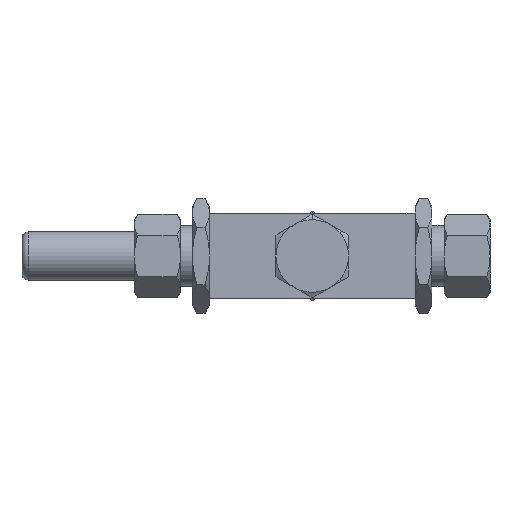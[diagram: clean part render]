
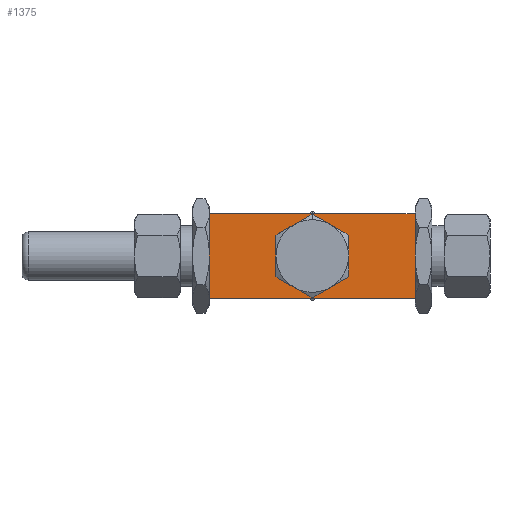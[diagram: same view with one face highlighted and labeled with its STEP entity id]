
A CAD part, front view. The second image highlights one B-rep face of the part: STEP entity #1375.
In plain terms, the highlighted planar face has unit normal (0, -1, 0).
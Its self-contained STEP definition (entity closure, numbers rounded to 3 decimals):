
#117 = ORIENTED_EDGE ( 'NONE', *, *, #3538, .T. ) ;
#238 = CARTESIAN_POINT ( 'NONE',  ( 0., -32.5, 0. ) ) ;
#410 = EDGE_CURVE ( 'NONE', #5598, #3706, #5259, .T. ) ;
#414 = AXIS2_PLACEMENT_3D ( 'NONE', #2216, #5166, #6141 ) ;
#654 = CARTESIAN_POINT ( 'NONE',  ( 0., -32.5, 0. ) ) ;
#707 = CARTESIAN_POINT ( 'NONE',  ( 0., -32.5, 0. ) ) ;
#748 = CARTESIAN_POINT ( 'NONE',  ( 0., -32.5, 0. ) ) ;
#749 = ORIENTED_EDGE ( 'NONE', *, *, #3617, .F. ) ;
#801 = CARTESIAN_POINT ( 'NONE',  ( -42.5, -32.5, -17.5 ) ) ;
#884 = AXIS2_PLACEMENT_3D ( 'NONE', #238, #2183, #4678 ) ;
#964 = ORIENTED_EDGE ( 'NONE', *, *, #6220, .F. ) ;
#1072 = CARTESIAN_POINT ( 'NONE',  ( -42.5, -32.5, -17.5 ) ) ;
#1140 = FACE_BOUND ( 'NONE', #3761, .T. ) ;
#1194 = CIRCLE ( 'NONE', #884, 15. ) ;
#1229 = DIRECTION ( 'NONE',  ( 0., 0., -1. ) ) ;
#1267 = EDGE_LOOP ( 'NONE', ( #1551, #2240, #5068, #117 ) ) ;
#1318 = DIRECTION ( 'NONE',  ( 0., -1., 0. ) ) ;
#1372 = VECTOR ( 'NONE', #2077, 1000. ) ;
#1375 = ADVANCED_FACE ( 'NONE', ( #1618, #1140 ), #2223, .F. ) ;
#1387 = CIRCLE ( 'NONE', #3351, 15. ) ;
#1427 = CARTESIAN_POINT ( 'NONE',  ( -42.5, -32.5, 17.5 ) ) ;
#1527 = CIRCLE ( 'NONE', #414, 15. ) ;
#1551 = ORIENTED_EDGE ( 'NONE', *, *, #2468, .T. ) ;
#1618 = FACE_OUTER_BOUND ( 'NONE', #1267, .T. ) ;
#1677 = DIRECTION ( 'NONE',  ( 0., 0., -1. ) ) ;
#1740 = CARTESIAN_POINT ( 'NONE',  ( -7.5, -32.5, 12.99 ) ) ;
#1767 = CARTESIAN_POINT ( 'NONE',  ( 7.5, -32.5, 12.99 ) ) ;
#1781 = EDGE_CURVE ( 'NONE', #2086, #4304, #1527, .T. ) ;
#1788 = ORIENTED_EDGE ( 'NONE', *, *, #5767, .F. ) ;
#1791 = EDGE_CURVE ( 'NONE', #2143, #4657, #1841, .T. ) ;
#1814 = CARTESIAN_POINT ( 'NONE',  ( -15., -32.5, 0. ) ) ;
#1841 = CIRCLE ( 'NONE', #3910, 15. ) ;
#1905 = LINE ( 'NONE', #1427, #2294 ) ;
#2077 = DIRECTION ( 'NONE',  ( 1., 0., 0. ) ) ;
#2086 = VERTEX_POINT ( 'NONE', #1814 ) ;
#2097 = DIRECTION ( 'NONE',  ( 0., 0., -1. ) ) ;
#2126 = VERTEX_POINT ( 'NONE', #4538 ) ;
#2143 = VERTEX_POINT ( 'NONE', #3086 ) ;
#2183 = DIRECTION ( 'NONE',  ( 0., -1., 0. ) ) ;
#2209 = DIRECTION ( 'NONE',  ( 0., -1., 0. ) ) ;
#2216 = CARTESIAN_POINT ( 'NONE',  ( 0., -32.5, 0. ) ) ;
#2223 = PLANE ( 'NONE',  #2721 ) ;
#2240 = ORIENTED_EDGE ( 'NONE', *, *, #410, .F. ) ;
#2294 = VECTOR ( 'NONE', #5314, 1000. ) ;
#2315 = CIRCLE ( 'NONE', #2626, 15. ) ;
#2468 = EDGE_CURVE ( 'NONE', #4936, #3706, #5988, .T. ) ;
#2626 = AXIS2_PLACEMENT_3D ( 'NONE', #5972, #2991, #4899 ) ;
#2682 = ORIENTED_EDGE ( 'NONE', *, *, #1791, .F. ) ;
#2721 = AXIS2_PLACEMENT_3D ( 'NONE', #6150, #3663, #3700 ) ;
#2733 = CARTESIAN_POINT ( 'NONE',  ( 7.5, -32.5, -12.99 ) ) ;
#2885 = CARTESIAN_POINT ( 'NONE',  ( 42.5, -32.5, -17.5 ) ) ;
#2950 = EDGE_CURVE ( 'NONE', #2126, #5598, #4546, .T. ) ;
#2991 = DIRECTION ( 'NONE',  ( 0., -1., 0. ) ) ;
#3005 = VERTEX_POINT ( 'NONE', #2733 ) ;
#3079 = EDGE_CURVE ( 'NONE', #4657, #4585, #6015, .T. ) ;
#3086 = CARTESIAN_POINT ( 'NONE',  ( 15., -32.5, 0. ) ) ;
#3172 = DIRECTION ( 'NONE',  ( 0., -1., 0. ) ) ;
#3230 = AXIS2_PLACEMENT_3D ( 'NONE', #5747, #1318, #3289 ) ;
#3247 = ORIENTED_EDGE ( 'NONE', *, *, #3079, .F. ) ;
#3289 = DIRECTION ( 'NONE',  ( 0., 0., -1. ) ) ;
#3318 = CARTESIAN_POINT ( 'NONE',  ( 42.5, -32.5, 17.5 ) ) ;
#3351 = AXIS2_PLACEMENT_3D ( 'NONE', #748, #2209, #1229 ) ;
#3424 = CARTESIAN_POINT ( 'NONE',  ( 42.5, -32.5, 17.5 ) ) ;
#3538 = EDGE_CURVE ( 'NONE', #2126, #4936, #1905, .T. ) ;
#3617 = EDGE_CURVE ( 'NONE', #3005, #2143, #5919, .T. ) ;
#3663 = DIRECTION ( 'NONE',  ( 0., 1., 0. ) ) ;
#3700 = DIRECTION ( 'NONE',  ( 0., 0., 1. ) ) ;
#3706 = VERTEX_POINT ( 'NONE', #2885 ) ;
#3761 = EDGE_LOOP ( 'NONE', ( #3247, #2682, #749, #1788, #5406, #4338, #964 ) ) ;
#3781 = CARTESIAN_POINT ( 'NONE',  ( -7.5, -32.5, -12.99 ) ) ;
#3910 = AXIS2_PLACEMENT_3D ( 'NONE', #654, #3172, #1677 ) ;
#3963 = VECTOR ( 'NONE', #5047, 1000. ) ;
#4304 = VERTEX_POINT ( 'NONE', #3781 ) ;
#4338 = ORIENTED_EDGE ( 'NONE', *, *, #1781, .F. ) ;
#4454 = CARTESIAN_POINT ( 'NONE',  ( 0., -32.5, -15. ) ) ;
#4538 = CARTESIAN_POINT ( 'NONE',  ( -42.5, -32.5, 17.5 ) ) ;
#4546 = LINE ( 'NONE', #6004, #1372 ) ;
#4585 = VERTEX_POINT ( 'NONE', #1740 ) ;
#4657 = VERTEX_POINT ( 'NONE', #1767 ) ;
#4678 = DIRECTION ( 'NONE',  ( 0., 0., -1. ) ) ;
#4899 = DIRECTION ( 'NONE',  ( 0., 0., -1. ) ) ;
#4936 = VERTEX_POINT ( 'NONE', #801 ) ;
#5047 = DIRECTION ( 'NONE',  ( 1., 0., 0. ) ) ;
#5068 = ORIENTED_EDGE ( 'NONE', *, *, #2950, .F. ) ;
#5096 = AXIS2_PLACEMENT_3D ( 'NONE', #707, #5118, #2097 ) ;
#5118 = DIRECTION ( 'NONE',  ( 0., -1., 0. ) ) ;
#5166 = DIRECTION ( 'NONE',  ( 0., -1., 0. ) ) ;
#5259 = LINE ( 'NONE', #3318, #6248 ) ;
#5314 = DIRECTION ( 'NONE',  ( 0., 0., -1. ) ) ;
#5406 = ORIENTED_EDGE ( 'NONE', *, *, #6034, .F. ) ;
#5598 = VERTEX_POINT ( 'NONE', #3424 ) ;
#5685 = VERTEX_POINT ( 'NONE', #4454 ) ;
#5747 = CARTESIAN_POINT ( 'NONE',  ( 0., -32.5, 0. ) ) ;
#5767 = EDGE_CURVE ( 'NONE', #5685, #3005, #1194, .T. ) ;
#5781 = DIRECTION ( 'NONE',  ( 0., 0., -1. ) ) ;
#5919 = CIRCLE ( 'NONE', #5096, 15. ) ;
#5972 = CARTESIAN_POINT ( 'NONE',  ( 0., -32.5, 0. ) ) ;
#5988 = LINE ( 'NONE', #1072, #3963 ) ;
#6004 = CARTESIAN_POINT ( 'NONE',  ( -42.5, -32.5, 17.5 ) ) ;
#6015 = CIRCLE ( 'NONE', #3230, 15. ) ;
#6034 = EDGE_CURVE ( 'NONE', #4304, #5685, #2315, .T. ) ;
#6141 = DIRECTION ( 'NONE',  ( 0., 0., -1. ) ) ;
#6150 = CARTESIAN_POINT ( 'NONE',  ( -42.5, -32.5, 17.5 ) ) ;
#6220 = EDGE_CURVE ( 'NONE', #4585, #2086, #1387, .T. ) ;
#6248 = VECTOR ( 'NONE', #5781, 1000. ) ;
